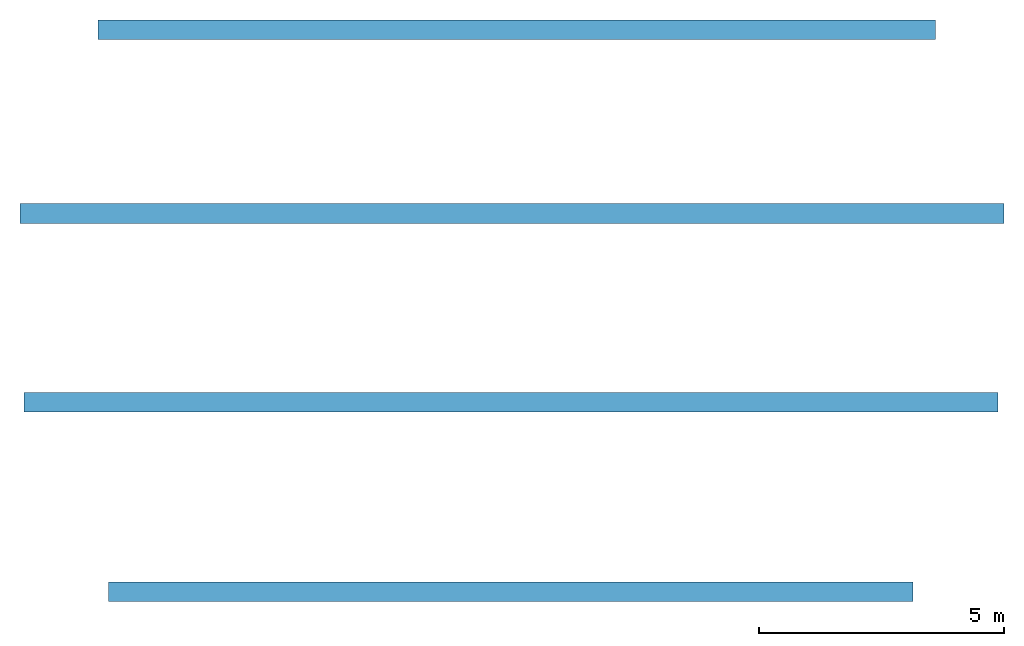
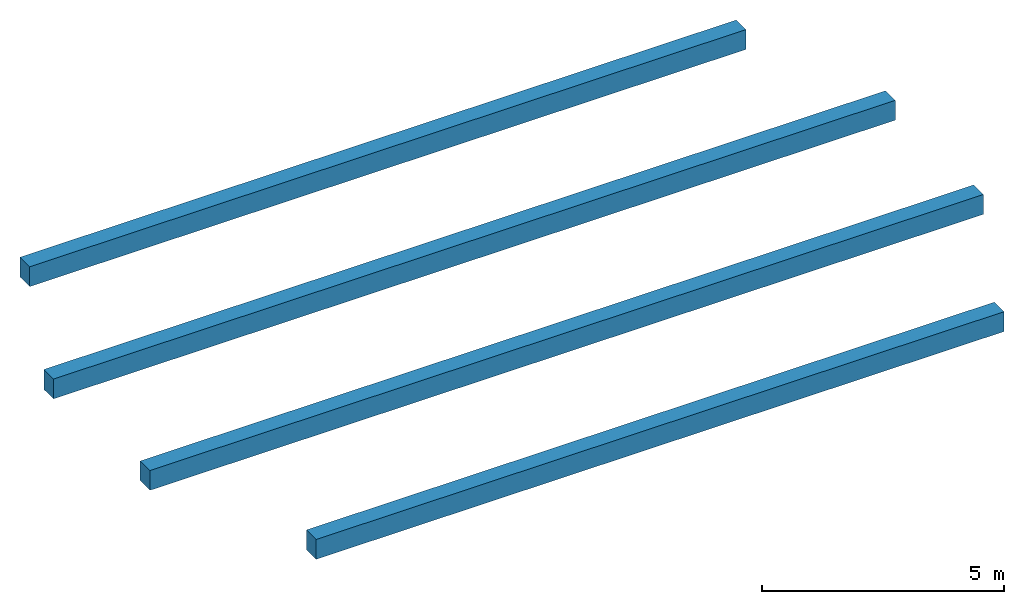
# One storey: 4 beams.
"""IFC2X3 building model written with IfcOpenShell, lengths in centimetres."""

import ifcopenshell
import ifcopenshell.guid

model = None  # the IFC model being written
_history = None  # IfcOwnerHistory: only IFC2X3 demands one
_inside = {}  # id of a spatial element -> (the spatial element, [elements in it])
_under = {}  # id of a project, library or spatial element -> (it, [spatial elements below it])
_declared = {}  # id of a project -> (the project, [libraries it declares])
_typed = {}  # id of a type object -> (the type object, [elements of that type])
_made_of = {}  # id of a material, layer set ... -> (it, [elements and type objects made of it])


def new_model(schema):
    """Start an empty IFC model of exactly this schema.

    Asked for "IFC4X3", IfcOpenShell would pick the latest addendum, in which some entities
    have other attributes; the version numbers below select the first issue.
    IFC2X3 requires an IfcOwnerHistory on every rooted entity: one is made here for all.
    """
    global model, _history
    if schema == "IFC4X3":
        model = ifcopenshell.file(schema_version=(4, 3, 0, 0))
    else:
        model = ifcopenshell.file(schema=schema)
    _inside.clear()
    _under.clear()
    _declared.clear()
    _typed.clear()
    _made_of.clear()
    _history = None
    if model.schema == "IFC2X3":
        org = make("IfcOrganization", Name="unknown")
        user = make(
            "IfcPersonAndOrganization",
            ThePerson=make("IfcPerson", FamilyName="unknown"),
            TheOrganization=org,
        )
        app = make(
            "IfcApplication",
            ApplicationDeveloper=org,
            Version="unknown",
            ApplicationFullName="unknown",
            ApplicationIdentifier="unknown",
        )
        _history = make(
            "IfcOwnerHistory",
            OwningUser=user,
            OwningApplication=app,
            ChangeAction="ADDED",
            CreationDate=0,
        )
    return model


def make(cls, **values):
    """One entity of the class cls with the attributes given. An attribute that is None is left unset."""
    return model.create_entity(
        cls, **{name: value for name, value in values.items() if value is not None}
    )


def entity(cls, *values):
    """Any entity or typed value of the class cls, its attributes in the order of the schema. None: left unset."""
    e = model.create_entity(cls)
    for i, value in enumerate(values):
        if value is not None:
            e[i] = value
    return e


def rooted(cls, **values):
    """An entity with a GlobalId (a new one), such as an element, a storey or a relation."""
    return make(cls, GlobalId=ifcopenshell.guid.new(), OwnerHistory=_history, **values)


def si_unit(unit_type, name, prefix=None):
    """IfcSIUnit, for example si_unit("LENGTHUNIT", "METRE", prefix="MILLI")."""
    return make("IfcSIUnit", UnitType=unit_type, Prefix=prefix, Name=name)


def converted_unit(unit_type, name, factor, base, dimensions=None, offset=None):
    """IfcConversionBasedUnit, such as the inch: factor (a typed value) times the base unit."""
    return make(
        "IfcConversionBasedUnit"
        if offset is None
        else "IfcConversionBasedUnitWithOffset",
        ConversionOffset=offset,
        Dimensions=None
        if dimensions is None
        else entity("IfcDimensionalExponents", *dimensions),
        UnitType=unit_type,
        Name=name,
        ConversionFactor=make(
            "IfcMeasureWithUnit", ValueComponent=factor, UnitComponent=base
        ),
    )


def derived_unit(unit_type, elements):
    """IfcDerivedUnit: a product of units, each with its exponent."""
    return make(
        "IfcDerivedUnit",
        Elements=[
            make("IfcDerivedUnitElement", Unit=unit, Exponent=power)
            for unit, power in elements
        ],
        UnitType=unit_type,
    )


def assignment(units):
    """IfcUnitAssignment: the units of a project."""
    return None if units is None else make("IfcUnitAssignment", Units=units)


def point(xyz):
    """IfcCartesianPoint."""
    return None if xyz is None else make("IfcCartesianPoint", Coordinates=xyz)


def direction(xyz):
    """IfcDirection."""
    return None if xyz is None else make("IfcDirection", DirectionRatios=xyz)


def frame(location, z_axis=None, x_axis=None):
    """IfcAxis2Placement3D, a coordinate frame: its origin and axes. An axis left out is left unset."""
    return make(
        "IfcAxis2Placement3D",
        Location=point(location),
        Axis=direction(z_axis),
        RefDirection=direction(x_axis),
    )


def frame_2d(location, x_axis=None):
    """IfcAxis2Placement2D, a coordinate frame in the plane: its origin and x axis."""
    return make(
        "IfcAxis2Placement2D", Location=point(location), RefDirection=direction(x_axis)
    )


def origin():
    """The frame at (0, 0, 0) with its axes left unset."""
    return frame((0.0, 0.0, 0.0))


def place(relative_to, where):
    """IfcLocalPlacement: puts the frame where relative to a parent placement (None: the world)."""
    return make(
        "IfcLocalPlacement", PlacementRelTo=relative_to, RelativePlacement=where
    )


def context(
    kind, dimensions, precision=None, world=None, true_north=None, identifier=None
):
    """IfcGeometricRepresentationContext, for example the 3D "Model" context."""
    return make(
        "IfcGeometricRepresentationContext",
        ContextIdentifier=identifier,
        ContextType=kind,
        CoordinateSpaceDimension=dimensions,
        Precision=precision,
        WorldCoordinateSystem=world,
        TrueNorth=true_north,
    )


def subcontext(parent, identifier, kind, view, scale=None):
    """IfcGeometricRepresentationSubContext, for example "Body" below "Model"."""
    return make(
        "IfcGeometricRepresentationSubContext",
        ContextIdentifier=identifier,
        ContextType=kind,
        ParentContext=parent,
        TargetScale=scale,
        TargetView=view,
    )


def project(units=None, contexts=None):
    """IfcProject with its units and contexts."""
    return rooted(
        "IfcProject",
        Name="project",
        RepresentationContexts=contexts,
        UnitsInContext=assignment(units),
    )


def spatial(cls, under=None, at=None, **own):
    """A site, building, storey or space (cls), placed at a placement, below another one or the project."""
    s = rooted(cls, ObjectPlacement=at, **own)
    if under is not None:
        _under.setdefault(under.id(), (under, []))[1].append(s)
    return s


def profile(cls, at=None, kind="AREA", **sizes):
    """A parametric profile (cls). Its sizes go by their IFC names, for example OverallWidth=200.0."""
    return make(cls, ProfileType=kind, Position=at, **sizes)


def rectangle(**sizes):
    """IfcRectangleProfileDef."""
    return profile("IfcRectangleProfileDef", **sizes)


def extrude(swept, where, along, depth):
    """IfcExtrudedAreaSolid: the profile swept, set in the frame where, extruded along a direction by depth."""
    return make(
        "IfcExtrudedAreaSolid",
        SweptArea=swept,
        Position=where,
        ExtrudedDirection=direction(along),
        Depth=depth,
    )


def shape(context_of_items, identifier, shape_type, items):
    """IfcShapeRepresentation: the items that make up one representation, for example the "Body"."""
    return make(
        "IfcShapeRepresentation",
        ContextOfItems=context_of_items,
        RepresentationIdentifier=identifier,
        RepresentationType=shape_type,
        Items=items,
    )


def material(Name=None, Category=None):
    """IfcMaterial."""
    return make("IfcMaterial", Name=Name, Category=Category)


def made_of(thing, what):
    """Note that an element or type object is made of a material, layer set ...; save() writes the relation."""
    if what is not None:
        _made_of.setdefault(what.id(), (what, []))[1].append(thing)
    return thing


def type_object(cls, material=None, **own):
    """A type object (cls), such as IfcWallType, which elements share."""
    return made_of(rooted(cls, **own), material)


def element(
    cls,
    number,
    at=None,
    inside=None,
    cuts=None,
    type_object=None,
    material=None,
    context=None,
    identifier="Body",
    shape_type=None,
    held_by="IfcProductDefinitionShape",
    body=None,
    shapes=None,
    **own,
):
    """One element of the class cls, such as IfcWall. Its Tag is "e" and its number.

    at: its placement. inside: the storey or other place that contains it. cuts: it is an
    opening in that element (IfcRelVoidsElement). A single representation is given by context,
    identifier, shape_type and body (its items); several are given by shapes. held_by: the class
    of the entity that holds the representations. save() writes the other relations.
    """
    e = rooted(cls, Tag="e%d" % number, ObjectPlacement=at, **own)
    if body is not None:
        shapes = [shape(context, identifier, shape_type, body)]
    if shapes is not None:
        e.Representation = make(held_by, Representations=shapes)
    if inside is not None:
        _inside.setdefault(inside.id(), (inside, []))[1].append(e)
    if cuts is not None:
        rooted(
            "IfcRelVoidsElement", RelatingBuildingElement=cuts, RelatedOpeningElement=e
        )
    if type_object is not None:
        _typed.setdefault(type_object.id(), (type_object, []))[1].append(e)
    return made_of(e, material)


def aggregate(whole, parts):
    """IfcRelAggregates: a whole, such as a stair, and the parts it consists of."""
    return rooted("IfcRelAggregates", RelatingObject=whole, RelatedObjects=parts)


def save(model, path):
    """Write the relations noted so far, then the file.

    IfcRelAggregates (storeys below a building ...), IfcRelContainedInSpatialStructure (elements
    in a storey), IfcRelDefinesByType, IfcRelAssociatesMaterial and IfcRelDeclares: one each for
    every whole, place, type object, material and project.
    """
    for whole, parts in _under.values():
        aggregate(whole, parts)
    for where, things in _inside.values():
        rooted(
            "IfcRelContainedInSpatialStructure",
            RelatedElements=things,
            RelatingStructure=where,
        )
    for kind, things in _typed.values():
        rooted("IfcRelDefinesByType", RelatedObjects=things, RelatingType=kind)
    for what, things in _made_of.values():
        rooted("IfcRelAssociatesMaterial", RelatedObjects=things, RelatingMaterial=what)
    for by, libraries in _declared.values():
        rooted("IfcRelDeclares", RelatingContext=by, RelatedDefinitions=libraries)
    model.write(path)


model = new_model("IFC2X3")

# Units and contexts
model_context = context("Model", 3, precision=0.001, world=origin(), true_north=direction((6.12303176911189e-17, 1.0)))
body_context = subcontext(model_context, "Body", "Model", "MODEL_VIEW")
ifc_project = project(units=[si_unit("LENGTHUNIT", "METRE", prefix="CENTI"), si_unit("AREAUNIT", "SQUARE_METRE"), si_unit("VOLUMEUNIT", "CUBIC_METRE"), converted_unit("PLANEANGLEUNIT", "DEGREE", entity("IfcRatioMeasure", 0.0174532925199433), si_unit("PLANEANGLEUNIT", "RADIAN"), dimensions=[0, 0, 0, 0, 0, 0, 0]), si_unit("MASSUNIT", "GRAM", prefix="KILO"), derived_unit("MASSDENSITYUNIT", [(si_unit("MASSUNIT", "GRAM", prefix="KILO"), 1), (si_unit("LENGTHUNIT", "METRE"), -3)]), si_unit("TIMEUNIT", "SECOND"), si_unit("FREQUENCYUNIT", "HERTZ"), si_unit("THERMODYNAMICTEMPERATUREUNIT", "DEGREE_CELSIUS"), derived_unit("THERMALTRANSMITTANCEUNIT", [(si_unit("MASSUNIT", "GRAM", prefix="KILO"), 1), (si_unit("THERMODYNAMICTEMPERATUREUNIT", "KELVIN"), -1), (si_unit("TIMEUNIT", "SECOND"), -3)]), derived_unit("VOLUMETRICFLOWRATEUNIT", [(si_unit("LENGTHUNIT", "METRE"), 3), (si_unit("TIMEUNIT", "SECOND"), -1)]), si_unit("ELECTRICCURRENTUNIT", "AMPERE"), si_unit("ELECTRICVOLTAGEUNIT", "VOLT"), si_unit("POWERUNIT", "WATT"), si_unit("FORCEUNIT", "NEWTON", prefix="KILO"), si_unit("ILLUMINANCEUNIT", "LUX"), si_unit("LUMINOUSFLUXUNIT", "LUMEN"), si_unit("LUMINOUSINTENSITYUNIT", "CANDELA"), derived_unit("USERDEFINED", [(si_unit("MASSUNIT", "GRAM", prefix="KILO"), -1), (si_unit("LENGTHUNIT", "METRE"), -2), (si_unit("TIMEUNIT", "SECOND"), 3), (si_unit("LUMINOUSFLUXUNIT", "LUMEN"), 1)]), derived_unit("LINEARVELOCITYUNIT", [(si_unit("LENGTHUNIT", "METRE"), 1), (si_unit("TIMEUNIT", "SECOND"), -1)]), si_unit("PRESSUREUNIT", "PASCAL"), derived_unit("USERDEFINED", [(si_unit("LENGTHUNIT", "METRE"), -2), (si_unit("MASSUNIT", "GRAM", prefix="KILO"), 1), (si_unit("TIMEUNIT", "SECOND"), -2)])], contexts=[model_context])

# Site, building, storey
site_placement = place(None, origin())
site = spatial("IfcSite", under=ifc_project, at=site_placement, Name="Default", CompositionType="ELEMENT")
building_placement = place(site_placement, origin())
building = spatial("IfcBuilding", under=site, at=building_placement, CompositionType="ELEMENT")
storey_placement = place(building_placement, frame((0.0, 0.0, -80.0)))
storey = spatial("IfcBuildingStorey", under=building, at=storey_placement, Name="Niveau dessus voiles", CompositionType="ELEMENT", Elevation=-80.0)

# Beams
ifc_material = material(Name="Béton - Béton précoulé - 35 MPa")
beam_type = type_object("IfcBeamType", Name="Précoulé-Poutre rectangulaire:400 RB 500", PredefinedType="BEAM")
beam_1_placement = place(storey_placement, frame((884.898126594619, 547.0, 0.0), z_axis=(0.0, 0.0, 1.0), x_axis=(-1.0, 0.0, 0.0)))
element("IfcBeam", 1, at=beam_1_placement, inside=storey, type_object=beam_type, material=ifc_material, Name="Précoulé-Poutre rectangulaire:400 RB 500", ObjectType="Précoulé-Poutre rectangulaire:400 RB 500", context=body_context, shape_type="SweptSolid", body=[
    extrude(rectangle(XDim=50.0, YDim=40.0000000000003, at=frame_2d((0.0, 5.6861182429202e-12), x_axis=(1.0, 0.0))), frame((18.7699999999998, 0.0, -25.0), z_axis=(1.0, 0.0, 0.0), x_axis=(0.0, 0.0, -1.0)), (0.0, 0.0, 1.0), 1709.25392030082),
])
beam_2_placement = place(storey_placement, frame((328.0, 172.0, 0.0)))
element("IfcBeam", 2, at=beam_2_placement, inside=storey, type_object=beam_type, material=ifc_material, Name="Précoulé-Poutre rectangulaire:400 RB 500", ObjectType="Précoulé-Poutre rectangulaire:400 RB 500", context=body_context, shape_type="SweptSolid", body=[
    extrude(rectangle(XDim=50.0, YDim=40.0000000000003, at=frame_2d((0.0, 6.45528075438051e-12), x_axis=(1.0, 0.0))), frame((-1330.85704365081, 0.0, -25.0), z_axis=(1.0, 0.0, 0.0), x_axis=(0.0, 0.0, -1.0)), (0.0, 0.0, 1.0), 2008.86439357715),
])
beam_3_placement = place(storey_placement, frame((328.0, -213.0, 0.0)))
element("IfcBeam", 3, at=beam_3_placement, inside=storey, type_object=beam_type, material=ifc_material, Name="Précoulé-Poutre rectangulaire:400 RB 500", ObjectType="Précoulé-Poutre rectangulaire:400 RB 500", context=body_context, shape_type="SweptSolid", body=[
    extrude(rectangle(XDim=50.0, YDim=40.0000000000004, at=frame_2d((0.0, 6.45705711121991e-12), x_axis=(1.0, 0.0))), frame((-1322.95590354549, 0.0, -25.0), z_axis=(1.0, 0.0, 0.0), x_axis=(0.0, 0.0, -1.0)), (0.0, 0.0, 1.0), 1988.96010713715),
])
beam_4_placement = place(storey_placement, frame((328.0, -600.0, 0.0)))
element("IfcBeam", 4, at=beam_4_placement, inside=storey, type_object=beam_type, material=ifc_material, Name="Précoulé-Poutre rectangulaire:400 RB 500", ObjectType="Précoulé-Poutre rectangulaire:400 RB 500", context=body_context, shape_type="SweptSolid", body=[
    extrude(rectangle(XDim=50.0, YDim=40.0000000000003, at=frame_2d((0.0, 5.46762635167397e-12), x_axis=(1.0, 0.0))), frame((-1149.77019293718, 0.0, -25.0), z_axis=(1.0, 0.0, 0.0), x_axis=(0.0, 0.0, -1.0)), (0.0, 0.0, 1.0), 1641.56570688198),
])

save(model, "model.ifc")
